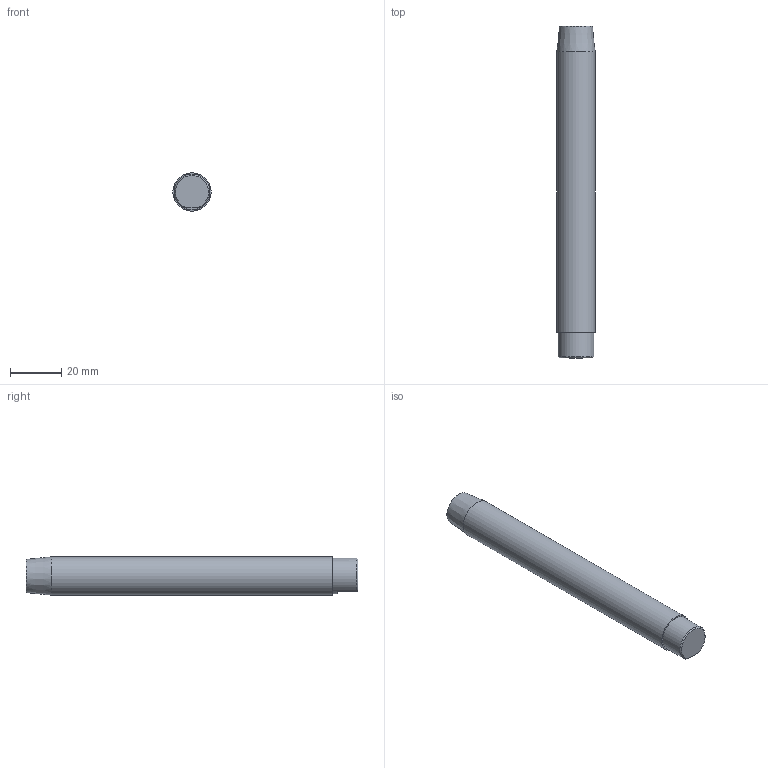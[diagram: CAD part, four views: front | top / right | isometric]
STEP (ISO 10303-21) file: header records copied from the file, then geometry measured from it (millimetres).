
FILE_DESCRIPTION(/* description */ (''),/* implementation_level */ '2;1');
FILE_NAME(/* name */ 'WHEELS-INSERT.03.stp',/* time_stamp */ '2018-05-25T14:04:52+02:00',/* author */ (''),/* organization */ (''),/* preprocessor_version */ 'ST-DEVELOPER v16.7',/* originating_system */ 'SIEMENS PLM Software NX 12.0',/* authorisation */ '');
FILE_SCHEMA (('AP203_CONFIGURATION_CONTROLLED_3D_DESIGN_OF_MECHANICAL_PARTS_AND_ASSEMBLIES_MIM_LF { 1 0 10303 403 2 1 2}'));
Length unit declared in the file: millimetre
Products named in the file (1): turc66A81BAD9zbj
Bounding box: 15 x 130 x 15 mm (x, y, z)
Volume: 22476.9 mm3; surface area: 6360.8 mm2
Topology: 1 solids, 1 shells, 9 faces, 18 edges, 12 vertices
Faces by surface type: plane 5, cylinder 2, cone 2
Full cylindrical faces by diameter (mm): 14 x1, 15 x1
Entity records: 310 total; most frequent: CARTESIAN_POINT 39, DIRECTION 38, ORIENTED_EDGE 26, AXIS2_PLACEMENT_3D 17, EDGE_LOOP 13, EDGE_CURVE 13, VERTEX_POINT 10, ADVANCED_FACE 9
